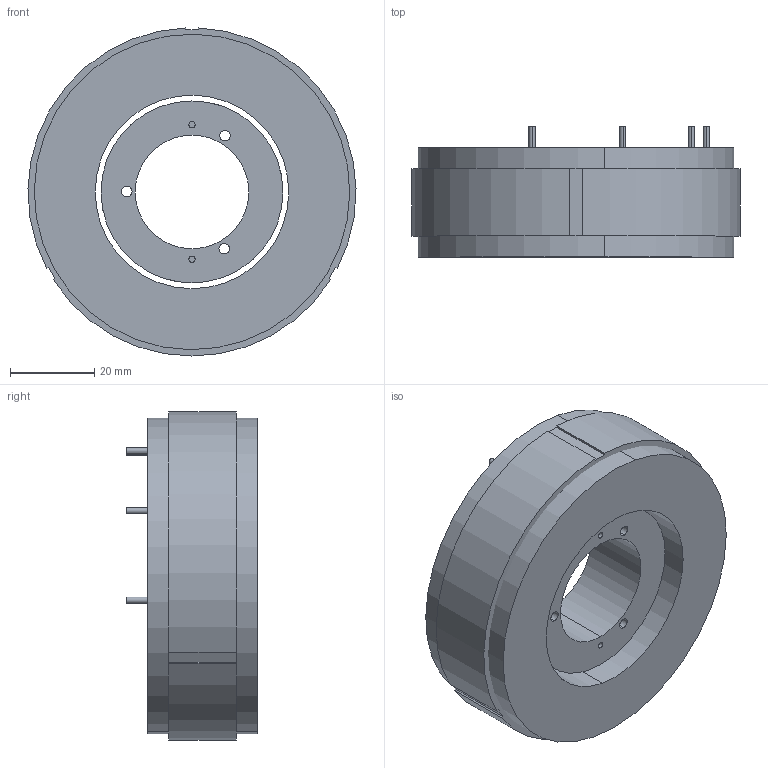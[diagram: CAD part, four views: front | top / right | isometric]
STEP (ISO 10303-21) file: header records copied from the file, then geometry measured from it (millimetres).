
FILE_DESCRIPTION (( 'STEP AP203' ), '1' );
FILE_NAME ('TMXSL78-25 KIT 3D.STEP', '2021-05-08T04:47:08', ( '' ), ( '' ), 'SwSTEP 2.0', 'SolidWorks 2021', '' );
FILE_SCHEMA (( 'CONFIG_CONTROL_DESIGN' ));
Length unit declared in the file: millimetre
Products named in the file (1): TMXSL78-25 KIT 3D
Bounding box: 77.99 x 31 x 77.97 mm (x, y, z)
Volume: 98610.3 mm3; surface area: 30672.4 mm2
Topology: 3 solids, 3 shells, 141 faces, 363 edges, 242 vertices
Faces by surface type: cylinder 82, plane 59
Entity records: 4470 total; most frequent: DIRECTION 823, CARTESIAN_POINT 747, ORIENTED_EDGE 726, EDGE_CURVE 363, AXIS2_PLACEMENT_3D 318, VERTEX_POINT 242, LINE 187, VECTOR 187
